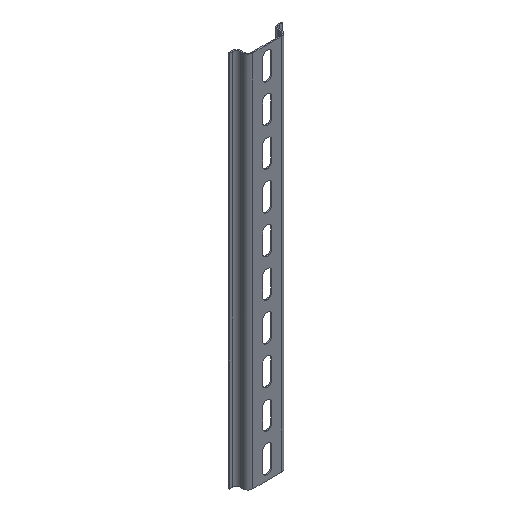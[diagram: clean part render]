
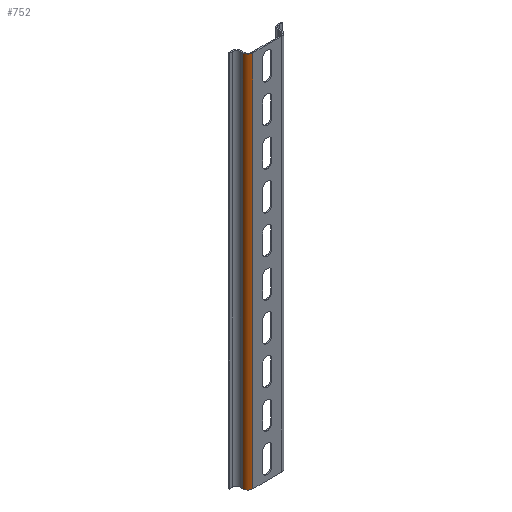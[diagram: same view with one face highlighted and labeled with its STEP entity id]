
A CAD part, isometric view. The second image highlights one B-rep face of the part: STEP entity #752.
In plain terms, the highlighted cylindrical face has radius 3.3 mm (diameter 6.6 mm), a partial arc.
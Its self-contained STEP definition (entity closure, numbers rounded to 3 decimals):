
#67 = DIRECTION ( 'NONE',  ( 1., 0., 0. ) ) ;
#80 = AXIS2_PLACEMENT_3D ( 'NONE', #1254, #431, #1683 ) ;
#101 = CARTESIAN_POINT ( 'NONE',  ( -9.6, 2.5, 250. ) ) ;
#147 = LINE ( 'NONE', #2694, #700 ) ;
#150 = AXIS2_PLACEMENT_3D ( 'NONE', #101, #2400, #67 ) ;
#338 = VERTEX_POINT ( 'NONE', #1527 ) ;
#392 = CARTESIAN_POINT ( 'NONE',  ( -12.9, 2.5, 0. ) ) ;
#414 = FACE_OUTER_BOUND ( 'NONE', #785, .T. ) ;
#431 = DIRECTION ( 'NONE',  ( 0., 0., -1. ) ) ;
#591 = AXIS2_PLACEMENT_3D ( 'NONE', #1823, #2047, #2458 ) ;
#700 = VECTOR ( 'NONE', #2053, 1000. ) ;
#738 = ORIENTED_EDGE ( 'NONE', *, *, #2456, .T. ) ;
#752 = ADVANCED_FACE ( 'NONE', ( #414 ), #1924, .T. ) ;
#785 = EDGE_LOOP ( 'NONE', ( #1521, #805, #1769, #738 ) ) ;
#805 = ORIENTED_EDGE ( 'NONE', *, *, #1328, .F. ) ;
#837 = VERTEX_POINT ( 'NONE', #2126 ) ;
#895 = VECTOR ( 'NONE', #1069, 1000. ) ;
#930 = CIRCLE ( 'NONE', #150, 3.3 ) ;
#1010 = CIRCLE ( 'NONE', #591, 3.3 ) ;
#1069 = DIRECTION ( 'NONE',  ( 0., 0., -1. ) ) ;
#1223 = EDGE_CURVE ( 'NONE', #837, #1994, #1010, .T. ) ;
#1224 = VERTEX_POINT ( 'NONE', #1802 ) ;
#1254 = CARTESIAN_POINT ( 'NONE',  ( -9.6, 2.5, 250. ) ) ;
#1328 = EDGE_CURVE ( 'NONE', #338, #837, #147, .T. ) ;
#1521 = ORIENTED_EDGE ( 'NONE', *, *, #1223, .F. ) ;
#1527 = CARTESIAN_POINT ( 'NONE',  ( -9.6, -0.8, 250. ) ) ;
#1683 = DIRECTION ( 'NONE',  ( -1., 0., 0. ) ) ;
#1769 = ORIENTED_EDGE ( 'NONE', *, *, #2044, .T. ) ;
#1802 = CARTESIAN_POINT ( 'NONE',  ( -12.9, 2.5, 250. ) ) ;
#1823 = CARTESIAN_POINT ( 'NONE',  ( -9.6, 2.5, 0. ) ) ;
#1892 = CARTESIAN_POINT ( 'NONE',  ( -12.9, 2.5, 250. ) ) ;
#1924 = CYLINDRICAL_SURFACE ( 'NONE', #80, 3.3 ) ;
#1994 = VERTEX_POINT ( 'NONE', #392 ) ;
#2044 = EDGE_CURVE ( 'NONE', #338, #1224, #930, .T. ) ;
#2047 = DIRECTION ( 'NONE',  ( 0., 0., -1. ) ) ;
#2053 = DIRECTION ( 'NONE',  ( 0., 0., -1. ) ) ;
#2126 = CARTESIAN_POINT ( 'NONE',  ( -9.6, -0.8, 0. ) ) ;
#2372 = LINE ( 'NONE', #1892, #895 ) ;
#2400 = DIRECTION ( 'NONE',  ( 0., 0., -1. ) ) ;
#2456 = EDGE_CURVE ( 'NONE', #1224, #1994, #2372, .T. ) ;
#2458 = DIRECTION ( 'NONE',  ( 1., 0., 0. ) ) ;
#2694 = CARTESIAN_POINT ( 'NONE',  ( -9.6, -0.8, 250. ) ) ;
